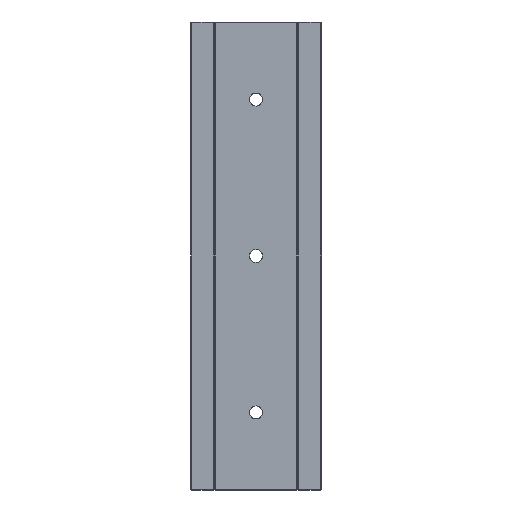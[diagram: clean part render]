
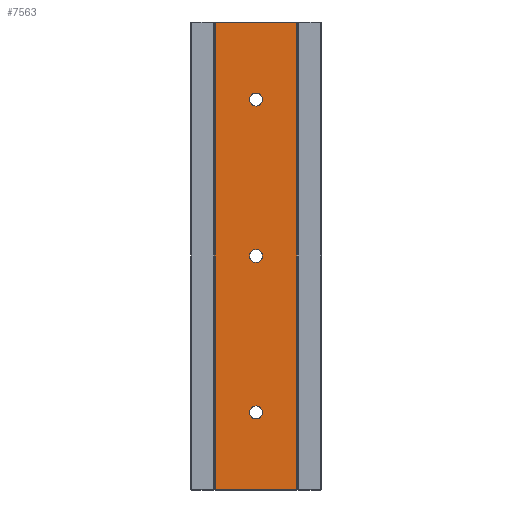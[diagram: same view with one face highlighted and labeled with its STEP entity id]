
A CAD part, left-side view. The second image highlights one B-rep face of the part: STEP entity #7563.
In plain terms, the highlighted planar face has unit normal (-1, 0, 0).
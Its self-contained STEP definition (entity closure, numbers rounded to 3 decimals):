
#86 = CARTESIAN_POINT ( 'NONE',  ( -8.227, 7.48, -94.962 ) ) ;
#371 = EDGE_LOOP ( 'NONE', ( #6087, #2128 ) ) ;
#400 = EDGE_CURVE ( 'Defeatured_0_79+Defeatured_0_121+Defeatured_0_120+Defeatured_0_120', #11126, #2985, #2547, .T. ) ;
#405 = ORIENTED_EDGE ( 'NONE', *, *, #5585, .T. ) ;
#432 = ORIENTED_EDGE ( 'NONE', *, *, #8672, .T. ) ;
#434 = DIRECTION ( 'NONE',  ( 0., 0., -1. ) ) ;
#488 = EDGE_CURVE ( 'Defeatured_0_79+Defeatured_0_92+Defeatured_0_93+Defeatured_0_93', #2226, #10062, #4525, .T. ) ;
#500 = CIRCLE ( 'NONE', #4819, 2.5 ) ;
#614 = EDGE_LOOP ( 'NONE', ( #5881, #432 ) ) ;
#757 = ORIENTED_EDGE ( 'NONE', *, *, #9281, .T. ) ;
#801 = ORIENTED_EDGE ( 'NONE', *, *, #7018, .T. ) ;
#831 = CARTESIAN_POINT ( 'NONE',  ( -8.227, 7.48, -157.462 ) ) ;
#970 = EDGE_LOOP ( 'NONE', ( #757, #801, #6142, #7011 ) ) ;
#1238 = CARTESIAN_POINT ( 'NONE',  ( -8.227, 7.48, -92.462 ) ) ;
#1281 = VERTEX_POINT ( 'NONE', #10072 ) ;
#1421 = DIRECTION ( 'NONE',  ( 0., 0., -1. ) ) ;
#1561 = DIRECTION ( 'NONE',  ( 1., 0., 0. ) ) ;
#1643 = CARTESIAN_POINT ( 'NONE',  ( -8.227, -8.52, -5.212 ) ) ;
#1963 = AXIS2_PLACEMENT_3D ( 'NONE', #6943, #8584, #6891 ) ;
#2103 = CARTESIAN_POINT ( 'NONE',  ( -8.227, 23.18, -184.412 ) ) ;
#2128 = ORIENTED_EDGE ( 'NONE', *, *, #488, .T. ) ;
#2204 = CARTESIAN_POINT ( 'NONE',  ( -8.227, -8.52, -184.412 ) ) ;
#2226 = VERTEX_POINT ( 'NONE', #3557 ) ;
#2385 = FACE_BOUND ( 'NONE', #371, .T. ) ;
#2515 = VECTOR ( 'NONE', #5639, 1000. ) ;
#2547 = CIRCLE ( 'NONE', #10254, 2.5 ) ;
#2576 = CARTESIAN_POINT ( 'NONE',  ( -8.227, 7.48, -34.962 ) ) ;
#2716 = VERTEX_POINT ( 'NONE', #1238 ) ;
#2752 = CARTESIAN_POINT ( 'NONE',  ( -8.227, -8.52, -5.512 ) ) ;
#2826 = VERTEX_POINT ( 'NONE', #7264 ) ;
#2863 = CIRCLE ( 'NONE', #1963, 2.5 ) ;
#2932 = LINE ( 'NONE', #2204, #2515 ) ;
#2985 = VERTEX_POINT ( 'NONE', #5057 ) ;
#3023 = DIRECTION ( 'NONE',  ( 0., 0., 1. ) ) ;
#3283 = FACE_OUTER_BOUND ( 'NONE', #970, .T. ) ;
#3557 = CARTESIAN_POINT ( 'NONE',  ( -8.227, 7.48, -32.462 ) ) ;
#3910 = VECTOR ( 'NONE', #8657, 1000. ) ;
#3923 = VECTOR ( 'NONE', #3023, 1000. ) ;
#4023 = CARTESIAN_POINT ( 'NONE',  ( -8.227, -8.22, -184.412 ) ) ;
#4307 = DIRECTION ( 'NONE',  ( 1., 0., 0. ) ) ;
#4424 = DIRECTION ( 'NONE',  ( 0., 0., -1. ) ) ;
#4467 = DIRECTION ( 'NONE',  ( 1., 0., 0. ) ) ;
#4525 = CIRCLE ( 'NONE', #10979, 2.5 ) ;
#4721 = CARTESIAN_POINT ( 'NONE',  ( -8.227, 7.48, -154.962 ) ) ;
#4747 = CARTESIAN_POINT ( 'NONE',  ( -8.227, 23.18, -5.212 ) ) ;
#4819 = AXIS2_PLACEMENT_3D ( 'NONE', #86, #7907, #4424 ) ;
#4970 = EDGE_CURVE ( 'Defeatured_0_79+Defeatured_0_68+Defeatured_0_63+Defeatured_0_60', #5420, #6190, #9127, .T. ) ;
#5057 = CARTESIAN_POINT ( 'NONE',  ( -8.227, 7.48, -152.462 ) ) ;
#5396 = LINE ( 'NONE', #2752, #3910 ) ;
#5420 = VERTEX_POINT ( 'NONE', #8378 ) ;
#5519 = EDGE_CURVE ( 'Defeatured_0_79+Defeatured_0_93+Defeatured_0_92+Defeatured_0_92', #10062, #2226, #6947, .T. ) ;
#5585 = EDGE_CURVE ( 'Defeatured_0_79+Defeatured_0_106+Defeatured_0_107+Defeatured_0_107', #2716, #2826, #500, .T. ) ;
#5639 = DIRECTION ( 'NONE',  ( 0., -1., 0. ) ) ;
#5881 = ORIENTED_EDGE ( 'NONE', *, *, #400, .T. ) ;
#6040 = CARTESIAN_POINT ( 'NONE',  ( -8.227, 7.48, -94.962 ) ) ;
#6079 = EDGE_CURVE ( 'Defeatured_0_79+Defeatured_0_107+Defeatured_0_106+Defeatured_0_106', #2826, #2716, #8031, .T. ) ;
#6087 = ORIENTED_EDGE ( 'NONE', *, *, #5519, .T. ) ;
#6142 = ORIENTED_EDGE ( 'NONE', *, *, #6514, .T. ) ;
#6190 = VERTEX_POINT ( 'NONE', #2103 ) ;
#6398 = DIRECTION ( 'NONE',  ( 1., 0., 0. ) ) ;
#6514 = EDGE_CURVE ( 'Defeatured_0_79+Defeatured_0_63+Defeatured_0_57+Defeatured_0_68', #1281, #5420, #5396, .T. ) ;
#6556 = FACE_BOUND ( 'NONE', #10515, .T. ) ;
#6671 = CARTESIAN_POINT ( 'NONE',  ( -8.227, 7.48, -34.962 ) ) ;
#6714 = DIRECTION ( 'NONE',  ( 0., 1., 0. ) ) ;
#6764 = DIRECTION ( 'NONE',  ( 1., 0., 0. ) ) ;
#6891 = DIRECTION ( 'NONE',  ( 0., 0., -1. ) ) ;
#6943 = CARTESIAN_POINT ( 'NONE',  ( -8.227, 7.48, -154.962 ) ) ;
#6947 = CIRCLE ( 'NONE', #10721, 2.5 ) ;
#7011 = ORIENTED_EDGE ( 'NONE', *, *, #4970, .T. ) ;
#7018 = EDGE_CURVE ( 'Defeatured_0_79+Defeatured_0_57+Defeatured_0_60+Defeatured_0_63', #10625, #1281, #9989, .T. ) ;
#7264 = CARTESIAN_POINT ( 'NONE',  ( -8.227, 7.48, -97.462 ) ) ;
#7563 = ADVANCED_FACE ( 'Defeatured_0_79', ( #9140, #6556, #2385, #3283 ), #9342, .F. ) ;
#7807 = VECTOR ( 'NONE', #1421, 1000. ) ;
#7838 = DIRECTION ( 'NONE',  ( 0., 0., -1. ) ) ;
#7907 = DIRECTION ( 'NONE',  ( 1., 0., 0. ) ) ;
#7983 = AXIS2_PLACEMENT_3D ( 'NONE', #1643, #6764, #6714 ) ;
#8025 = CARTESIAN_POINT ( 'NONE',  ( -8.227, 7.48, -37.462 ) ) ;
#8031 = CIRCLE ( 'NONE', #10176, 2.5 ) ;
#8178 = ORIENTED_EDGE ( 'NONE', *, *, #6079, .T. ) ;
#8204 = CARTESIAN_POINT ( 'NONE',  ( -8.227, -8.22, -5.212 ) ) ;
#8378 = CARTESIAN_POINT ( 'NONE',  ( -8.227, 23.18, -5.512 ) ) ;
#8430 = DIRECTION ( 'NONE',  ( 0., 0., -1. ) ) ;
#8584 = DIRECTION ( 'NONE',  ( 1., 0., 0. ) ) ;
#8657 = DIRECTION ( 'NONE',  ( 0., 1., 0. ) ) ;
#8672 = EDGE_CURVE ( 'Defeatured_0_79+Defeatured_0_120+Defeatured_0_121+Defeatured_0_121', #2985, #11126, #2863, .T. ) ;
#9127 = LINE ( 'NONE', #4747, #7807 ) ;
#9140 = FACE_BOUND ( 'NONE', #614, .T. ) ;
#9281 = EDGE_CURVE ( 'Defeatured_0_79+Defeatured_0_60+Defeatured_0_68+Defeatured_0_57', #6190, #10625, #2932, .T. ) ;
#9342 = PLANE ( 'NONE',  #7983 ) ;
#9989 = LINE ( 'NONE', #8204, #3923 ) ;
#10062 = VERTEX_POINT ( 'NONE', #8025 ) ;
#10072 = CARTESIAN_POINT ( 'NONE',  ( -8.227, -8.22, -5.512 ) ) ;
#10176 = AXIS2_PLACEMENT_3D ( 'NONE', #6040, #4467, #7838 ) ;
#10254 = AXIS2_PLACEMENT_3D ( 'NONE', #4721, #6398, #434 ) ;
#10515 = EDGE_LOOP ( 'NONE', ( #8178, #405 ) ) ;
#10625 = VERTEX_POINT ( 'NONE', #4023 ) ;
#10721 = AXIS2_PLACEMENT_3D ( 'NONE', #2576, #1561, #8430 ) ;
#10938 = DIRECTION ( 'NONE',  ( 0., 0., -1. ) ) ;
#10979 = AXIS2_PLACEMENT_3D ( 'NONE', #6671, #4307, #10938 ) ;
#11126 = VERTEX_POINT ( 'NONE', #831 ) ;
